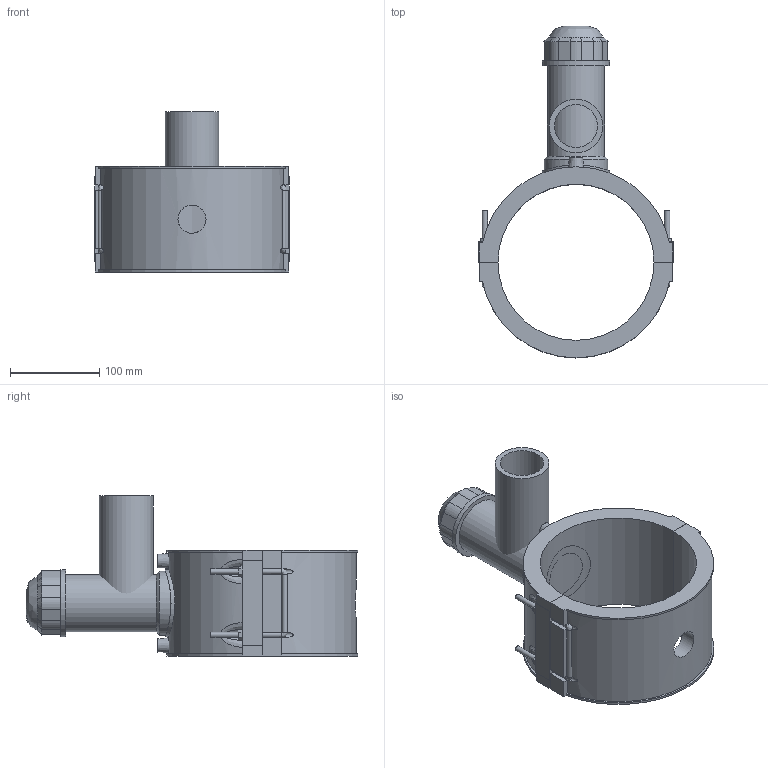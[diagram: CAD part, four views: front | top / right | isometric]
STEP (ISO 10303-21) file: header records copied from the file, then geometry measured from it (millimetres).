
FILE_DESCRIPTION(/* description */ ('PLASSON TAPPING SADDLE 6''''DIPS x 2''''IPS'),/* implementation_level */ '2;1');
FILE_NAME(/* name */ 'C:\Dropbox\KIMPROJECTS-Inventor 2019\99-16-3568-Processing Inch\ASTM ElectroFusion 2021\5963DBP_5963BUP\5963DBP3060020.ipt.stp',/* time_stamp */ '2021-08-30T09:58:37+03:00',/* author */ ('KIM'),/* organization */ (''),/* preprocessor_version */ 'ST-DEVELOPER v17.2',/* originating_system */ 'Autodesk Inventor 2019',/* authorisation */ '');
FILE_SCHEMA (('AUTOMOTIVE_DESIGN { 1 0 10303 214 3 1 1 }'));
Length unit declared in the file: inch
Products named in the file (1): 5963DBP3060020
Bounding box: 217.9 x 371.08 x 178.94 mm (x, y, z)
Volume: 1742823.6 mm3; surface area: 301198.6 mm2
Topology: 3 solids, 3 shells, 200 faces, 521 edges, 340 vertices
Faces by surface type: plane 125, cylinder 51, cone 15, bspline 9
Full cylindrical faces by diameter (mm): 4 x2, 6 x8, 10 x2, 31.36 x1, 48.08 x1, 52.524 x1, 60.1 x1, 63.78 x1, 71.283 x1, 75.035 x2
Entity records: 7416 total; most frequent: CARTESIAN_POINT 2469, ORIENTED_EDGE 1042, DIRECTION 976, EDGE_CURVE 521, VERTEX_POINT 340, AXIS2_PLACEMENT_3D 330, LINE 316, VECTOR 316
